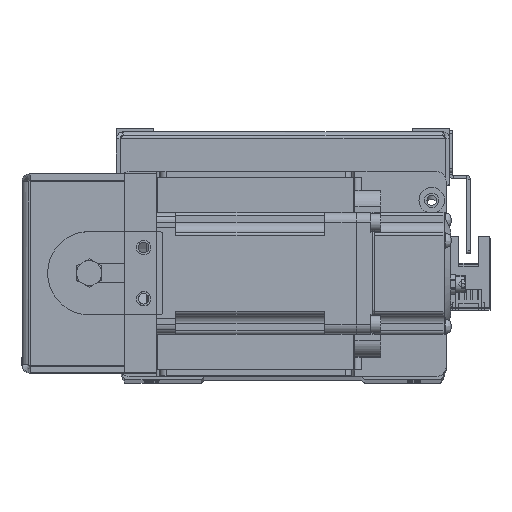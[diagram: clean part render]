
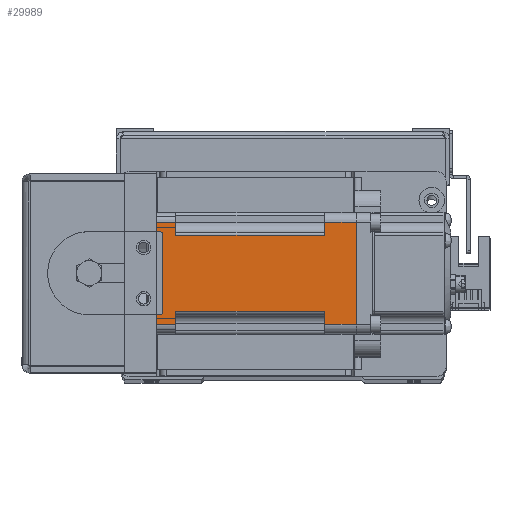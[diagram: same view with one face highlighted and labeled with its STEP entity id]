
A CAD part, top view. The second image highlights one B-rep face of the part: STEP entity #29989.
In plain terms, the highlighted planar face has unit normal (0, 0, 1) as drawn and (0, -1, 0) by its records, which use the part's own axes.
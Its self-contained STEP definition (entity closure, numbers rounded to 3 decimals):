
#509 = VERTEX_POINT ( 'NONE', #22946 ) ;
#850 = CARTESIAN_POINT ( 'NONE',  ( -6., -19., -16. ) ) ;
#1043 = VECTOR ( 'NONE', #2135, 1000. ) ;
#1098 = CARTESIAN_POINT ( 'NONE',  ( -52.5, -19., -11.85 ) ) ;
#1701 = DIRECTION ( 'NONE',  ( 0., 0., 1. ) ) ;
#1965 = CARTESIAN_POINT ( 'NONE',  ( -6., -19., 11.85 ) ) ;
#2135 = DIRECTION ( 'NONE',  ( -1., 0., 0. ) ) ;
#2616 = ORIENTED_EDGE ( 'NONE', *, *, #34318, .T. ) ;
#2666 = EDGE_LOOP ( 'NONE', ( #2616, #34999, #12158, #4743, #31490, #26864, #20663, #25624, #7063, #14538, #15431, #8937 ) ) ;
#2980 = VERTEX_POINT ( 'NONE', #23003 ) ;
#3635 = LINE ( 'NONE', #12390, #3953 ) ;
#3707 = VECTOR ( 'NONE', #35486, 1000. ) ;
#3953 = VECTOR ( 'NONE', #27017, 1000. ) ;
#4743 = ORIENTED_EDGE ( 'NONE', *, *, #12949, .T. ) ;
#5052 = LINE ( 'NONE', #13775, #35680 ) ;
#5102 = LINE ( 'NONE', #34767, #25459 ) ;
#5620 = VERTEX_POINT ( 'NONE', #1098 ) ;
#6400 = LINE ( 'NONE', #31866, #31308 ) ;
#6507 = EDGE_CURVE ( 'NONE', #16035, #21961, #34480, .T. ) ;
#6888 = CARTESIAN_POINT ( 'NONE',  ( -6., -19., 16. ) ) ;
#7063 = ORIENTED_EDGE ( 'NONE', *, *, #15071, .T. ) ;
#8157 = DIRECTION ( 'NONE',  ( 1., 0., 0. ) ) ;
#8652 = LINE ( 'NONE', #28808, #33947 ) ;
#8781 = DIRECTION ( 'NONE',  ( 0., 0., -1. ) ) ;
#8937 = ORIENTED_EDGE ( 'NONE', *, *, #6507, .T. ) ;
#9962 = VERTEX_POINT ( 'NONE', #26052 ) ;
#10190 = DIRECTION ( 'NONE',  ( -1., 0., 0. ) ) ;
#10251 = LINE ( 'NONE', #22403, #15568 ) ;
#10253 = LINE ( 'NONE', #28123, #26168 ) ;
#10937 = VERTEX_POINT ( 'NONE', #23739 ) ;
#12158 = ORIENTED_EDGE ( 'NONE', *, *, #23666, .T. ) ;
#12390 = CARTESIAN_POINT ( 'NONE',  ( -6., -19., -16. ) ) ;
#12949 = EDGE_CURVE ( 'NONE', #10937, #28592, #6400, .T. ) ;
#13138 = PLANE ( 'NONE',  #32519 ) ;
#13775 = CARTESIAN_POINT ( 'NONE',  ( -6., -19., 16. ) ) ;
#13829 = DIRECTION ( 'NONE',  ( 0., 0., 1. ) ) ;
#14538 = ORIENTED_EDGE ( 'NONE', *, *, #25637, .T. ) ;
#14784 = CARTESIAN_POINT ( 'NONE',  ( -52.5, -19., 16. ) ) ;
#15071 = EDGE_CURVE ( 'NONE', #9962, #15572, #10251, .T. ) ;
#15284 = CARTESIAN_POINT ( 'NONE',  ( -6., -19., 16. ) ) ;
#15431 = ORIENTED_EDGE ( 'NONE', *, *, #16022, .T. ) ;
#15568 = VECTOR ( 'NONE', #1701, 1000. ) ;
#15572 = VERTEX_POINT ( 'NONE', #27879 ) ;
#16022 = EDGE_CURVE ( 'NONE', #33704, #16035, #3635, .T. ) ;
#16035 = VERTEX_POINT ( 'NONE', #29315 ) ;
#16315 = DIRECTION ( 'NONE',  ( 0., 0., 1. ) ) ;
#18083 = EDGE_CURVE ( 'NONE', #5620, #2980, #22939, .T. ) ;
#19281 = CARTESIAN_POINT ( 'NONE',  ( -52.5, -19., -16. ) ) ;
#19636 = VERTEX_POINT ( 'NONE', #850 ) ;
#19892 = CARTESIAN_POINT ( 'NONE',  ( -52.5, -19., 11.85 ) ) ;
#20663 = ORIENTED_EDGE ( 'NONE', *, *, #22444, .T. ) ;
#21327 = DIRECTION ( 'NONE',  ( 0., -1., 0. ) ) ;
#21961 = VERTEX_POINT ( 'NONE', #19892 ) ;
#22093 = EDGE_CURVE ( 'NONE', #19636, #9962, #8652, .T. ) ;
#22403 = CARTESIAN_POINT ( 'NONE',  ( 0., -19., -16. ) ) ;
#22444 = EDGE_CURVE ( 'NONE', #2980, #19636, #31616, .T. ) ;
#22939 = LINE ( 'NONE', #34416, #26413 ) ;
#22946 = CARTESIAN_POINT ( 'NONE',  ( -62.48, -19., 16. ) ) ;
#23003 = CARTESIAN_POINT ( 'NONE',  ( -6., -19., -11.85 ) ) ;
#23268 = DIRECTION ( 'NONE',  ( 1., 0., 0. ) ) ;
#23666 = EDGE_CURVE ( 'NONE', #509, #10937, #24148, .T. ) ;
#23739 = CARTESIAN_POINT ( 'NONE',  ( -62.48, -19., -16. ) ) ;
#24148 = LINE ( 'NONE', #36018, #29100 ) ;
#25390 = EDGE_CURVE ( 'NONE', #28592, #5620, #10253, .T. ) ;
#25459 = VECTOR ( 'NONE', #13829, 1000. ) ;
#25624 = ORIENTED_EDGE ( 'NONE', *, *, #22093, .T. ) ;
#25637 = EDGE_CURVE ( 'NONE', #15572, #33704, #32796, .T. ) ;
#26052 = CARTESIAN_POINT ( 'NONE',  ( 0., -19., -16. ) ) ;
#26067 = CARTESIAN_POINT ( 'NONE',  ( -6., -19., -16. ) ) ;
#26168 = VECTOR ( 'NONE', #16315, 1000. ) ;
#26413 = VECTOR ( 'NONE', #8157, 1000. ) ;
#26864 = ORIENTED_EDGE ( 'NONE', *, *, #18083, .T. ) ;
#27017 = DIRECTION ( 'NONE',  ( 0., 0., -1. ) ) ;
#27879 = CARTESIAN_POINT ( 'NONE',  ( 0., -19., 16. ) ) ;
#28123 = CARTESIAN_POINT ( 'NONE',  ( -52.5, -19., -16. ) ) ;
#28592 = VERTEX_POINT ( 'NONE', #19281 ) ;
#28808 = CARTESIAN_POINT ( 'NONE',  ( -6., -19., -16. ) ) ;
#29100 = VECTOR ( 'NONE', #36202, 1000. ) ;
#29315 = CARTESIAN_POINT ( 'NONE',  ( -6., -19., 11.85 ) ) ;
#29989 = ADVANCED_FACE ( 'NONE', ( #30646 ), #13138, .T. ) ;
#30646 = FACE_OUTER_BOUND ( 'NONE', #2666, .T. ) ;
#31308 = VECTOR ( 'NONE', #23268, 1000. ) ;
#31490 = ORIENTED_EDGE ( 'NONE', *, *, #25390, .T. ) ;
#31616 = LINE ( 'NONE', #26067, #32103 ) ;
#31667 = DIRECTION ( 'NONE',  ( 1., 0., 0. ) ) ;
#31866 = CARTESIAN_POINT ( 'NONE',  ( -6., -19., -16. ) ) ;
#32103 = VECTOR ( 'NONE', #8781, 1000. ) ;
#32139 = EDGE_CURVE ( 'NONE', #35297, #509, #5052, .T. ) ;
#32519 = AXIS2_PLACEMENT_3D ( 'NONE', #36189, #21327, #35809 ) ;
#32796 = LINE ( 'NONE', #15284, #3707 ) ;
#33704 = VERTEX_POINT ( 'NONE', #6888 ) ;
#33947 = VECTOR ( 'NONE', #31667, 1000. ) ;
#34318 = EDGE_CURVE ( 'NONE', #21961, #35297, #5102, .T. ) ;
#34416 = CARTESIAN_POINT ( 'NONE',  ( -6., -19., -11.85 ) ) ;
#34480 = LINE ( 'NONE', #1965, #1043 ) ;
#34767 = CARTESIAN_POINT ( 'NONE',  ( -52.5, -19., -16. ) ) ;
#34999 = ORIENTED_EDGE ( 'NONE', *, *, #32139, .T. ) ;
#35297 = VERTEX_POINT ( 'NONE', #14784 ) ;
#35486 = DIRECTION ( 'NONE',  ( -1., 0., 0. ) ) ;
#35680 = VECTOR ( 'NONE', #10190, 1000. ) ;
#35809 = DIRECTION ( 'NONE',  ( 0., 0., -1. ) ) ;
#36018 = CARTESIAN_POINT ( 'NONE',  ( -62.48, -19., -16. ) ) ;
#36189 = CARTESIAN_POINT ( 'NONE',  ( -6., -19., -16. ) ) ;
#36202 = DIRECTION ( 'NONE',  ( 0., 0., -1. ) ) ;
